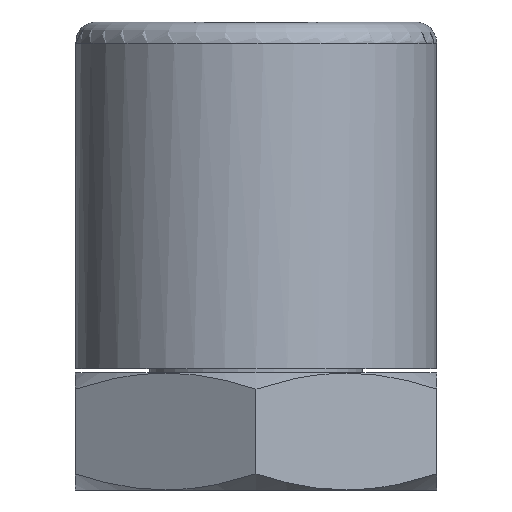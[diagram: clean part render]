
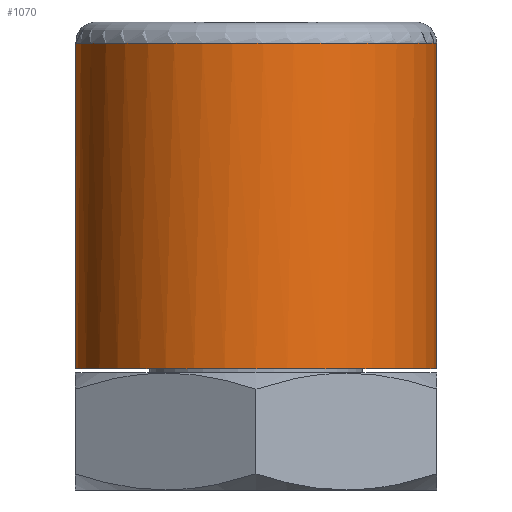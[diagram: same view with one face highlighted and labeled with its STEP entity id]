
A CAD part, left-side view. The second image highlights one B-rep face of the part: STEP entity #1070.
In plain terms, the highlighted cylindrical face has radius 8.5 mm (diameter 17 mm), a full revolution.
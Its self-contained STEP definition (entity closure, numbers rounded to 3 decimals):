
#77=LINE('',#1848,#128);
#90=LINE('',#1877,#141);
#128=VECTOR('',#1423,1000.);
#141=VECTOR('',#1442,1000.);
#166=CYLINDRICAL_SURFACE('',#1215,8.5);
#468=ORIENTED_EDGE('',*,*,#627,.F.);
#469=ORIENTED_EDGE('',*,*,#672,.F.);
#470=ORIENTED_EDGE('',*,*,#642,.T.);
#471=ORIENTED_EDGE('',*,*,#660,.T.);
#472=ORIENTED_EDGE('',*,*,#673,.T.);
#627=EDGE_CURVE('',#755,#756,#77,.F.);
#642=EDGE_CURVE('',#769,#768,#90,.F.);
#660=EDGE_CURVE('',#768,#756,#821,.F.);
#672=EDGE_CURVE('',#769,#755,#823,.T.);
#673=EDGE_CURVE('',#782,#782,#824,.T.);
#755=VERTEX_POINT('',#1847);
#756=VERTEX_POINT('',#1849);
#768=VERTEX_POINT('',#1876);
#769=VERTEX_POINT('',#1878);
#782=VERTEX_POINT('',#1987);
#821=CIRCLE('',#1205,8.5);
#823=CIRCLE('',#1211,8.5);
#824=CIRCLE('',#1213,8.5);
#896=EDGE_LOOP('',(#468,#469,#470,#471));
#897=EDGE_LOOP('',(#472));
#983=FACE_BOUND('',#896,.T.);
#984=FACE_BOUND('',#897,.T.);
#1070=ADVANCED_FACE('',(#983,#984),#166,.T.);
#1205=AXIS2_PLACEMENT_3D('',#1912,#1474,#1475);
#1211=AXIS2_PLACEMENT_3D('',#1984,#1486,#1487);
#1213=AXIS2_PLACEMENT_3D('',#1986,#1490,#1491);
#1215=AXIS2_PLACEMENT_3D('',#1990,#1494,#1495);
#1423=DIRECTION('',(0.,1.,0.));
#1442=DIRECTION('',(0.,1.,0.));
#1474=DIRECTION('',(0.,1.,0.));
#1475=DIRECTION('',(-1.,0.,0.));
#1486=DIRECTION('',(0.,1.,0.));
#1487=DIRECTION('',(0.,0.,1.));
#1490=DIRECTION('',(0.,1.,0.));
#1491=DIRECTION('',(0.,0.,1.));
#1494=DIRECTION('',(0.,1.,0.));
#1495=DIRECTION('',(0.,0.,1.));
#1847=CARTESIAN_POINT('',(6.874,15.3,5.));
#1848=CARTESIAN_POINT('',(6.874,16.3,5.));
#1849=CARTESIAN_POINT('',(6.874,1.3,5.));
#1876=CARTESIAN_POINT('',(6.874,1.3,-5.));
#1877=CARTESIAN_POINT('',(6.874,16.3,-5.));
#1878=CARTESIAN_POINT('',(6.874,15.3,-5.));
#1912=CARTESIAN_POINT('',(0.,1.3,0.));
#1984=CARTESIAN_POINT('',(0.,15.3,0.));
#1986=CARTESIAN_POINT('',(0.,0.,0.));
#1987=CARTESIAN_POINT('',(0.,0.,8.5));
#1990=CARTESIAN_POINT('',(0.,16.3,0.));
